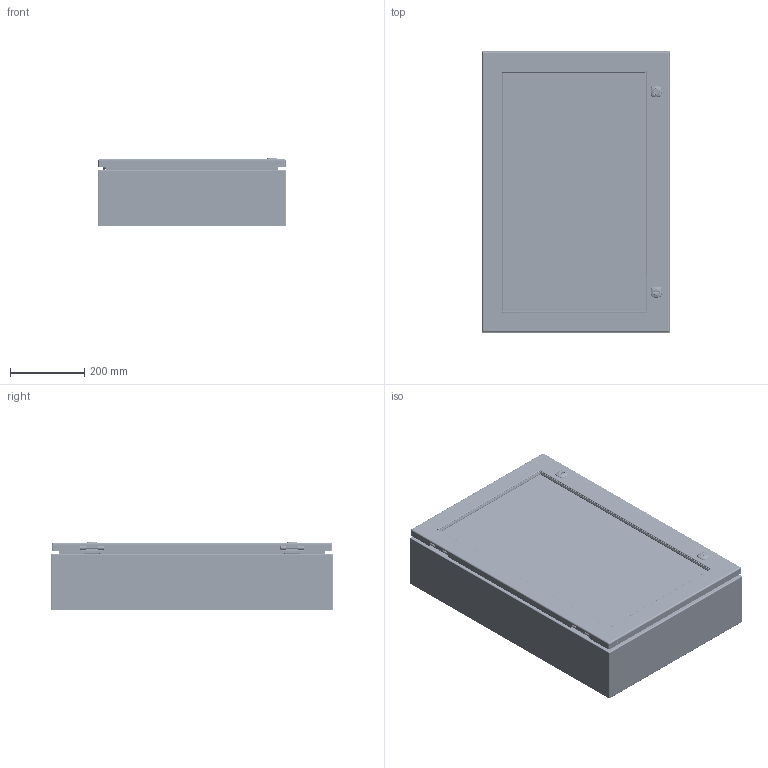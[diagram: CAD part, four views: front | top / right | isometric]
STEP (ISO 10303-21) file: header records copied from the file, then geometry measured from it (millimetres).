
FILE_DESCRIPTION(/* description */ ('5412ESW 30" x 20" x 6" Assembly'),/* implementation_level */ '2;1');
FILE_NAME(/* name */ 'C:\Vault_Workspace\Inventor_Dwg\BoxCad\Result\5412ESW302006\e-mail\3D\5412ESW302006.stp',/* time_stamp */ '2021-09-29T08:27:18-04:00',/* author */ ('BoxCad'),/* organization */ (''),/* preprocessor_version */ 'ST-DEVELOPER v18.1',/* originating_system */ 'Autodesk Inventor 2020',/* authorisation */ '');
FILE_SCHEMA (('AUTOMOTIVE_DESIGN { 1 0 10303 214 3 1 1 }'));
Products named in the file (61): 5412ESW302006; 5412ESW302006B; 5412ESW302006B-P; STK-Q-16005; STUD_M6 x 16mm; STK-S-00100; STK-Q-07610; 881SP3020G; 881SP3020G-P; STK-Q-07310; 5412ESW302006C; 5412ESW302006C-P; 5412ESW302006G; STK-K-09800; STK-K-09800-2; STK-Q-33014; STK-Q-90398; STK-Q-40095; STK-Q-63410; 5412ESW302006LX; 5412ESW302006LXG; 5412ESW302006_STK_G_02705; STK-Q-16052; 5412ESW302006_STK-A-60703; STK-Q-60703-2; STK-Q-60703-1; STK-Q-60703-3; STK-Q-60703-4; STK-Q-60702-A; STK-Q-60703-B; STK-Q-60703-C; STK-Q-60701; STK-Q-60701_1; STK-Q-60701_2; STK-Q-60701_3; STK-Q-60701_4; STK-Q-60701_5; STK-Q-60701_6; STK-Q-60701_7; STK-Q-60701_8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
Assembly tree (137 placements, depth 5):
  5412ESW302006
    5412ESW302006B
      5412ESW302006B-P
      STK-Q-16005  x4
      STK-P-02400S
      STUD_M6 x 16mm
      STK-S-00100
    STK-Q-07610  x4
    881SP3020G
      881SP3020G-P
    STK-Q-07310  x4
    5412ESW302006C
      5412ESW302006C-P
      5412ESW302006G
      STK-K-09800
        STK-Q-33014
        STK-Q-90398
        STK-Q-40095  x2
        STK-Q-63410  x2
      STK-K-09800-2
        STK-Q-33014
        STK-Q-90398
        STK-Q-40095  x2
        STK-Q-63410  x2
      5412ESW302006LX
      5412ESW302006LXG
      5412ESW302006_STK_G_02705
      STK-Q-16052  x14
      5412ESW302006_STK-A-60703
        STK-Q-60703-2
          STK-Q-60702-A
          STK-Q-60703-B
          STK-Q-60703-C
        STK-Q-60703-1
          STK-Q-60702-A
          STK-Q-60703-B
          STK-Q-60703-C
        STK-Q-60703-3
          STK-Q-60702-A
          STK-Q-60703-B
          STK-Q-60703-C
        STK-Q-60703-4
          STK-Q-60702-A
          STK-Q-60703-B
          STK-Q-60703-C
      STK-Q-60701
        STK-Q-60701-A
        STK-Q-60701-B
        STK-Q-60701-C
      STK-Q-60701_1
        STK-Q-60701-A
        STK-Q-60701-B
        STK-Q-60701-C
      STK-Q-60701_2
        STK-Q-60701-A
        STK-Q-60701-B
        STK-Q-60701-C
      STK-Q-60701_3
        STK-Q-60701-A
        STK-Q-60701-B
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Bounding box: 508.07 x 762 x 185.55 mm (x, y, z)
Volume: 4685263.5 mm3; surface area: 3829380.9 mm2
Topology: 109 solids, 109 shells, 21949 faces, 59596 edges, 38311 vertices
Faces by surface type: bspline 7946, plane 7396, cylinder 5260, torus 701, sphere 368, cone 278
Full cylindrical faces by diameter (mm): 0 x1, 0.75 x19, 0.762 x19, 1 x8, 1.1 x8, 3.2 x4, 4.4 x8, 4.5 x14, 4.521 x8, 4.75 x2, 4.85 x16, 4.95 x4, 5 x14, 5.1 x80, 5.156 x4, 5.6 x2, 5.9 x29, 6.65 x4, 6.85 x16, 6.894 x8, 7 x28, 7.3 x2, 7.366 x18, 7.9 x4, 8 x32, 8.382 x2, 9 x14, 9.5 x14, 9.6 x2, 9.906 x4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
Entity records: 201864 total; most frequent: CARTESIAN_POINT 80833, ORIENTED_EDGE 27524, DIRECTION 20173, EDGE_CURVE 13762, VERTEX_POINT 8738, AXIS2_PLACEMENT_3D 6979, LINE 6215, VECTOR 6215
